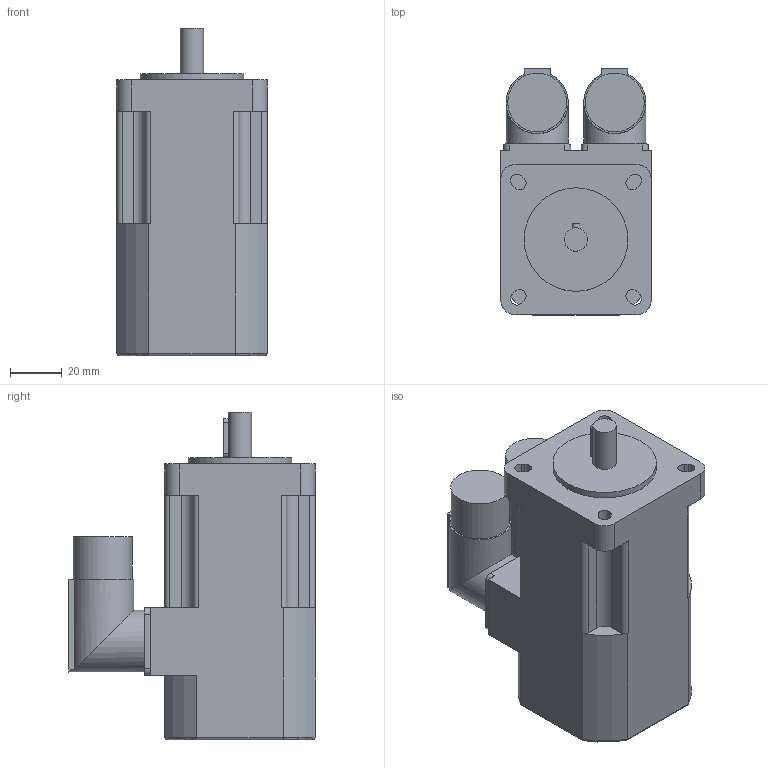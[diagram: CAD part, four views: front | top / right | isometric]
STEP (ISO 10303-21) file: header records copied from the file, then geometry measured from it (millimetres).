
FILE_DESCRIPTION(/* description */ (''),/* implementation_level */ '2;1');
FILE_NAME(/* name */ '\\Lafnas01\disegni\Archivi Lafert\3D\CAD 3D\MODELLI\Assiemi clienti\Serad\Modelli 3D Serad\B28Q\Encoder\Without Brake\B28D2Qxx6ARx2033.ipt.stp',/* time_stamp */ '2015-09-07T10:48:25+02:00',/* author */ ('Pastrello Ylenia'),/* organization */ (''),/* preprocessor_version */ 'ST-DEVELOPER v15.6',/* originating_system */ 'Autodesk Inventor 2015',/* authorisation */ '');
FILE_SCHEMA (('AUTOMOTIVE_DESIGN { 1 0 10303 214 3 1 1 }'));
Length unit declared in the file: millimetre
Products named in the file (1): B28D2Qxx6ARx2033
Bounding box: 58 x 95 x 126.5 mm (x, y, z)
Volume: 392030.8 mm3; surface area: 42309.6 mm2
Topology: 1 solids, 1 shells, 135 faces, 364 edges, 237 vertices
Faces by surface type: plane 71, cylinder 60, torus 4
Full cylindrical faces by diameter (mm): 9 x1, 22.7 x2, 24 x2, 40 x1
Entity records: 4341 total; most frequent: CARTESIAN_POINT 864, DIRECTION 737, ORIENTED_EDGE 712, EDGE_CURVE 355, AXIS2_PLACEMENT_3D 258, VERTEX_POINT 235, LINE 221, VECTOR 221
